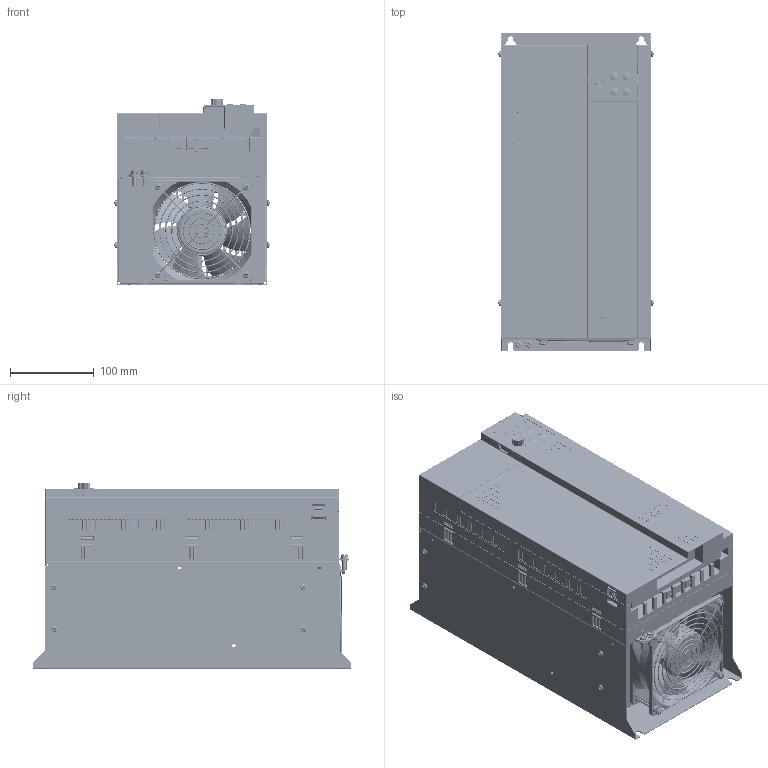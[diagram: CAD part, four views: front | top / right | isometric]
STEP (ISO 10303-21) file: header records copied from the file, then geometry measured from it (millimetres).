
FILE_DESCRIPTION((''),'2;1');
FILE_NAME('AD80-S4-DRIVE_30KW_ASM','2025-06-26T16:19:02',('wendong.luo'),(''),'CREO PARAMETRIC BY PTC INC, 2024374','CREO PARAMETRIC BY PTC INC, 2024374','');
FILE_SCHEMA(('CONFIG_CONTROL_DESIGN','GEOMETRIC_VALIDATION_PROPERTIES_MIM'));
Products named in the file (41): S4-MECHANICAL-PART-30KW; M0104197; M0104198; 25898; 35188; FAN12038_ASM; M0200009; E0100292; E0400085; E0400084; E0400074; E0400035; E0400088; E0400086; E0100292_ASM; M0203177; M0100011; M0100015; M0202000; M0202003; M0202001; M4-SPRING; M4-WASHER; M0202090_ASM; M0202007; FASTEN_30KW_ASM; M0104199; M0203053; AD80-S4-PU_30KW_ASM; AD80-LCP-MECHANICAL_PART; E0100294; 0805-LED; E0200191; E0200192; E0400038; E0300012; E0400011; E0100294_ASM; M0203065_00; AD80-KP00_ASM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
Assembly tree (70 placements, depth 5):
  AD80-S4-DRIVE_30KW_ASM
    AD80-S4-PU_30KW_ASM
      S4-MECHANICAL-PART-30KW
      M0104197
      M0104198
      FAN12038_ASM
        25898
        35188
      M0200009
      E0100292_ASM
        E0100292
        E0400085  x3
        E0400084  x2
        E0400074
        E0400035
        E0400088
        E0400086  x3
      M0203177
      M0100011
      M0100015  x2
      FASTEN_30KW_ASM
        M0202000  x9
        M0202003  x4
        M0202090_ASM  x4
          M0202001
          M4-SPRING
          M4-WASHER
        M0202007  x2
      M0104199
      M0203053
    AD80-KP00_ASM
      AD80-LCP-MECHANICAL_PART
      E0100294_ASM
        E0100294
        0805-LED  x6
        E0200191
        E0200192
        E0400038  x4
        E0300012
        E0400035
        E0400011
      M0203065_00
Bounding box: 185.03 x 380 x 222.85 mm (x, y, z)
Volume: 1877988.8 mm3; surface area: 1171850.6 mm2
Topology: 89 solids, 148 shells, 17791 faces, 47416 edges, 30454 vertices
Faces by surface type: plane 8973, cylinder 4198, bspline 1998, extrusion 1166, cone 606, torus 593, sphere 257
Entity records: 651194 total; most frequent: CARTESIAN_POINT 183504, ORIENTED_EDGE 78292, DIRECTION 64825, EDGE_CURVE 39290, PRESENTATION_STYLE_ASSIGNMENT 34793, STYLED_ITEM 34217, CURVE_STYLE 33787, VECTOR 25343
